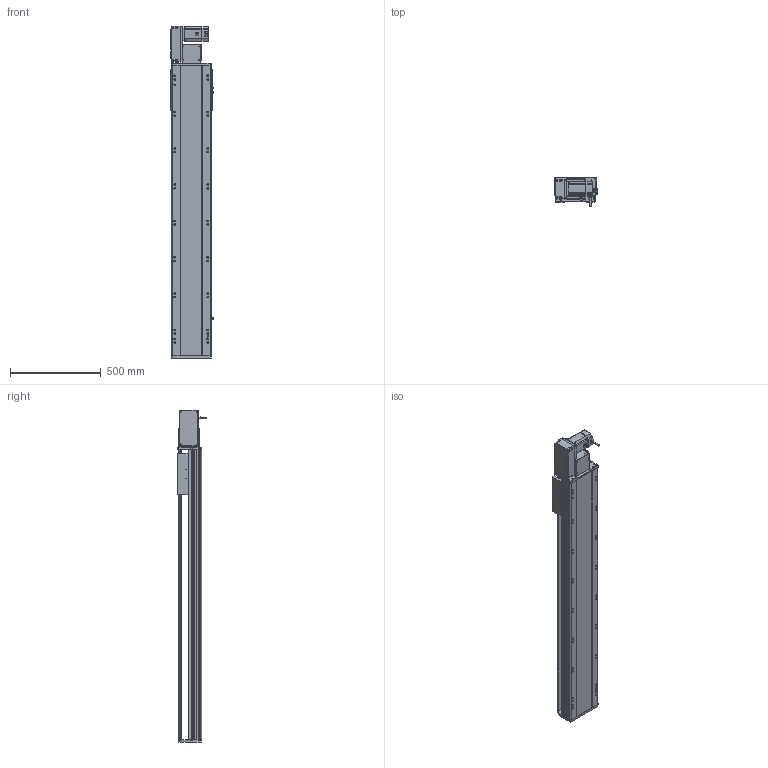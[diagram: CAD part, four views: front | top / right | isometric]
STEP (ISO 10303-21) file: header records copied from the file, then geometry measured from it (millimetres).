
FILE_DESCRIPTION (( 'STEP AP214' ), '1' );
FILE_NAME ('RTB22S-XX-1250-L-M75-C4.STEP', '2025-12-12T03:18:52', ( '' ), ( '' ), 'SwSTEP 2.0', 'SolidWorks 2018', '' );
FILE_SCHEMA (( 'AUTOMOTIVE_DESIGN' ));
Length unit declared in the file: millimetre
Products named in the file (14): OMRON EE-SX672 传感器^RTB22S-XX-XX-L-M75-C4; RTB22S-GY-001耜裔^RTB22S-XX-XX-L-M75-C4; RTB22S-L-004賑釱^RTB22S-XX-XX-L-M75-C4; RTB22S-L-011菁釱^RTB22S-XX-XX-L-M75-C4; RTB22S-GY-005P^RTB22S-L-々湍釱蚾饜_RTB22S-XX-XX-L-M75-C4; RTB22S-GY-017P^RTB22S-L-々湍釱蚾饜_RTB22S-XX-XX-L-M75-C4; RTB22S-GY-014--々湍釱^RTB22S-L-々湍釱蚾饜_RTB22S-XX-XX-L-M75-C4; RTB22S-XX-1250-L-M75-C4; RTB22S-L-々湍釱蚾饜^RTB22S-XX-XX-L-M75-C4; RTB22S-GY-018P^RTB22S-L-々湍釱蚾饜_RTB22S-XX-XX-L-M75-C4; RTH22-GY-013外置感应片^RTB22S-XX-XX-L-M75-C4; RTB22S-GY-007奻裔^RTB22S-XX-XX-L-M75-C4; RTB22S-GY-008-M75--萇儂啣^RTB22S-L-々湍釱蚾饜_RTB22S-XX-XX-L-M75-C4; 750W萇儂^RTB22S-XX-XX-L-M75-C4
Assembly tree (16 placements, depth 3):
  RTB22S-XX-1250-L-M75-C4
    RTB22S-L-011菁釱^RTB22S-XX-XX-L-M75-C4
    750W萇儂^RTB22S-XX-XX-L-M75-C4
    RTB22S-L-004賑釱^RTB22S-XX-XX-L-M75-C4
    OMRON EE-SX672 传感器^RTB22S-XX-XX-L-M75-C4  x3
    RTH22-GY-013外置感应片^RTB22S-XX-XX-L-M75-C4
    RTB22S-GY-007奻裔^RTB22S-XX-XX-L-M75-C4
    RTB22S-GY-001耜裔^RTB22S-XX-XX-L-M75-C4
    RTB22S-L-々湍釱蚾饜^RTB22S-XX-XX-L-M75-C4
      RTB22S-GY-014--々湍釱^RTB22S-L-々湍釱蚾饜_RTB22S-XX-XX-L-M75-C4
      RTB22S-GY-017P^RTB22S-L-々湍釱蚾饜_RTB22S-XX-XX-L-M75-C4  x2
      RTB22S-GY-005P^RTB22S-L-々湍釱蚾饜_RTB22S-XX-XX-L-M75-C4
      RTB22S-GY-008-M75--萇儂啣^RTB22S-L-々湍釱蚾饜_RTB22S-XX-XX-L-M75-C4
      RTB22S-GY-018P^RTB22S-L-々湍釱蚾饜_RTB22S-XX-XX-L-M75-C4
Bounding box: 238.5 x 162.7 x 1829 mm (x, y, z)
Volume: 24197802.2 mm3; surface area: 2508768.3 mm2
Topology: 15 solids, 15 shells, 2001 faces, 5436 edges, 3482 vertices
Faces by surface type: plane 917, cylinder 634, bspline 296, cone 142, sphere 8, torus 4
Entity records: 53426 total; most frequent: CARTESIAN_POINT 15320, ORIENTED_EDGE 7652, DIRECTION 7380, EDGE_CURVE 3826, AXIS2_PLACEMENT_3D 2610, VERTEX_POINT 2486, LINE 2160, VECTOR 2160
